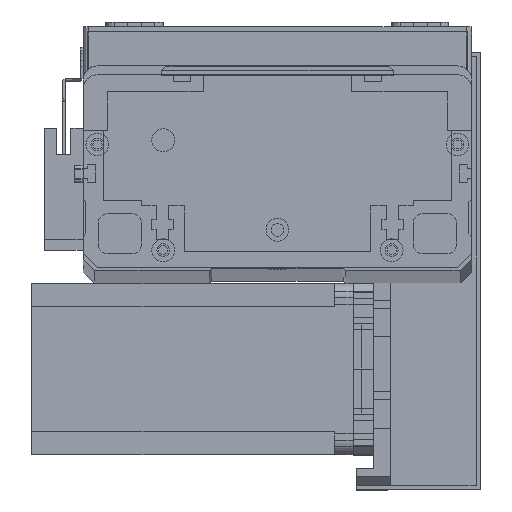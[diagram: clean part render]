
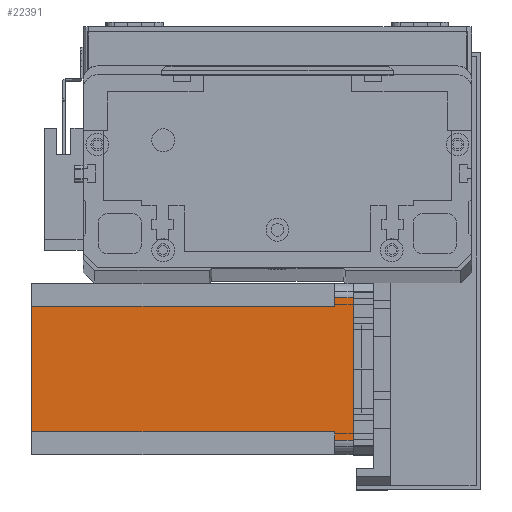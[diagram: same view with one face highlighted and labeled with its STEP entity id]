
A CAD part, top view. The second image highlights one B-rep face of the part: STEP entity #22391.
In plain terms, the highlighted planar face has unit normal (0, 0, 1) as drawn and (0, -1, 0) by its records, which use the part's own axes.
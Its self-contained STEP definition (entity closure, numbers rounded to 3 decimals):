
#196 = VECTOR ( 'NONE', #13813, 1000. ) ;
#570 = DIRECTION ( 'NONE',  ( 1., 0., 0. ) ) ;
#810 = DIRECTION ( 'NONE',  ( 0., 0., 1. ) ) ;
#977 = LINE ( 'NONE', #11398, #196 ) ;
#2828 = EDGE_CURVE ( 'NONE', #16914, #15833, #25343, .T. ) ;
#3185 = EDGE_CURVE ( 'NONE', #16914, #19771, #19119, .T. ) ;
#3584 = CARTESIAN_POINT ( 'NONE',  ( 8., 0., -112.5 ) ) ;
#3995 = FACE_OUTER_BOUND ( 'NONE', #16482, .T. ) ;
#4072 = DIRECTION ( 'NONE',  ( 0., -1., 0. ) ) ;
#4434 = LINE ( 'NONE', #3584, #18704 ) ;
#5109 = ORIENTED_EDGE ( 'NONE', *, *, #5447, .F. ) ;
#5212 = CARTESIAN_POINT ( 'NONE',  ( 52., 0., -112.5 ) ) ;
#5237 = LINE ( 'NONE', #24017, #10950 ) ;
#5282 = VECTOR ( 'NONE', #810, 1000. ) ;
#5447 = EDGE_CURVE ( 'NONE', #21984, #18314, #977, .T. ) ;
#6147 = AXIS2_PLACEMENT_3D ( 'NONE', #18467, #4072, #20786 ) ;
#7355 = VECTOR ( 'NONE', #570, 1000. ) ;
#7399 = DIRECTION ( 'NONE',  ( -1., 0., 0. ) ) ;
#8193 = CARTESIAN_POINT ( 'NONE',  ( 0., 0., -112.5 ) ) ;
#8890 = DIRECTION ( 'NONE',  ( 1., 0., 0. ) ) ;
#8952 = CARTESIAN_POINT ( 'NONE',  ( 0., 0., 0. ) ) ;
#9029 = ORIENTED_EDGE ( 'NONE', *, *, #11547, .T. ) ;
#9315 = EDGE_CURVE ( 'NONE', #9358, #15833, #5237, .T. ) ;
#9358 = VERTEX_POINT ( 'NONE', #14882 ) ;
#10165 = ORIENTED_EDGE ( 'NONE', *, *, #9315, .F. ) ;
#10671 = DIRECTION ( 'NONE',  ( 1., 0., 0. ) ) ;
#10741 = ORIENTED_EDGE ( 'NONE', *, *, #3185, .F. ) ;
#10950 = VECTOR ( 'NONE', #7399, 1000. ) ;
#11050 = ORIENTED_EDGE ( 'NONE', *, *, #2828, .T. ) ;
#11151 = VERTEX_POINT ( 'NONE', #17870 ) ;
#11398 = CARTESIAN_POINT ( 'NONE',  ( 52., 0., -112.5 ) ) ;
#11547 = EDGE_CURVE ( 'NONE', #21984, #19069, #14540, .T. ) ;
#13250 = LINE ( 'NONE', #24562, #5282 ) ;
#13813 = DIRECTION ( 'NONE',  ( 0., 0., -1. ) ) ;
#14540 = LINE ( 'NONE', #28928, #7355 ) ;
#14762 = CARTESIAN_POINT ( 'NONE',  ( 5., 0., -112.5 ) ) ;
#14882 = CARTESIAN_POINT ( 'NONE',  ( 8., 0., -6.5 ) ) ;
#14896 = DIRECTION ( 'NONE',  ( 0., 0., -1. ) ) ;
#15833 = VERTEX_POINT ( 'NONE', #29123 ) ;
#16482 = EDGE_LOOP ( 'NONE', ( #9029, #22194, #10741, #11050, #10165, #17142, #30313, #5109 ) ) ;
#16914 = VERTEX_POINT ( 'NONE', #23301 ) ;
#16941 = CARTESIAN_POINT ( 'NONE',  ( 52., 0., -6.5 ) ) ;
#17142 = ORIENTED_EDGE ( 'NONE', *, *, #17351, .F. ) ;
#17351 = EDGE_CURVE ( 'NONE', #11151, #9358, #4434, .T. ) ;
#17710 = VECTOR ( 'NONE', #14896, 1000. ) ;
#17870 = CARTESIAN_POINT ( 'NONE',  ( 8., 0., -112.5 ) ) ;
#18314 = VERTEX_POINT ( 'NONE', #5212 ) ;
#18467 = CARTESIAN_POINT ( 'NONE',  ( 0., 0., -112.5 ) ) ;
#18704 = VECTOR ( 'NONE', #20316, 1000. ) ;
#18775 = CARTESIAN_POINT ( 'NONE',  ( 55., 0., 0. ) ) ;
#19069 = VERTEX_POINT ( 'NONE', #26964 ) ;
#19119 = LINE ( 'NONE', #8952, #30620 ) ;
#19771 = VERTEX_POINT ( 'NONE', #18775 ) ;
#20316 = DIRECTION ( 'NONE',  ( 0., 0., 1. ) ) ;
#20786 = DIRECTION ( 'NONE',  ( 0., 0., -1. ) ) ;
#21984 = VERTEX_POINT ( 'NONE', #16941 ) ;
#22194 = ORIENTED_EDGE ( 'NONE', *, *, #28736, .T. ) ;
#22391 = ADVANCED_FACE ( 'NONE', ( #3995 ), #27635, .T. ) ;
#23301 = CARTESIAN_POINT ( 'NONE',  ( 5., 0., 0. ) ) ;
#24017 = CARTESIAN_POINT ( 'NONE',  ( 8., 0., -6.5 ) ) ;
#24562 = CARTESIAN_POINT ( 'NONE',  ( 55., 0., -112.5 ) ) ;
#25343 = LINE ( 'NONE', #14762, #17710 ) ;
#26647 = EDGE_CURVE ( 'NONE', #11151, #18314, #27811, .T. ) ;
#26964 = CARTESIAN_POINT ( 'NONE',  ( 55., 0., -6.5 ) ) ;
#27095 = VECTOR ( 'NONE', #10671, 1000. ) ;
#27635 = PLANE ( 'NONE',  #6147 ) ;
#27811 = LINE ( 'NONE', #8193, #27095 ) ;
#28736 = EDGE_CURVE ( 'NONE', #19069, #19771, #13250, .T. ) ;
#28928 = CARTESIAN_POINT ( 'NONE',  ( 52., 0., -6.5 ) ) ;
#29123 = CARTESIAN_POINT ( 'NONE',  ( 5., 0., -6.5 ) ) ;
#30313 = ORIENTED_EDGE ( 'NONE', *, *, #26647, .T. ) ;
#30620 = VECTOR ( 'NONE', #8890, 1000. ) ;
